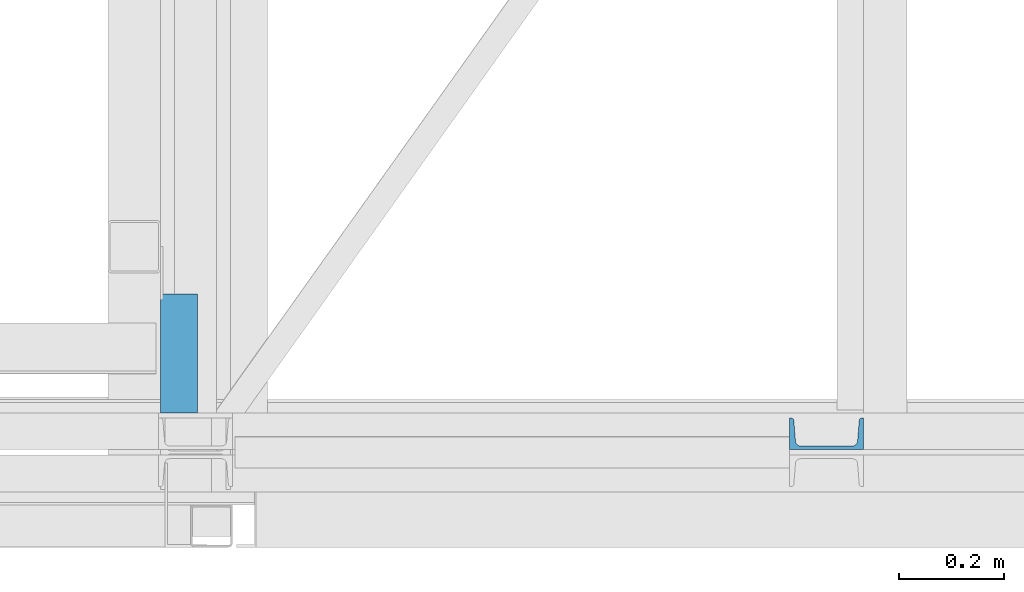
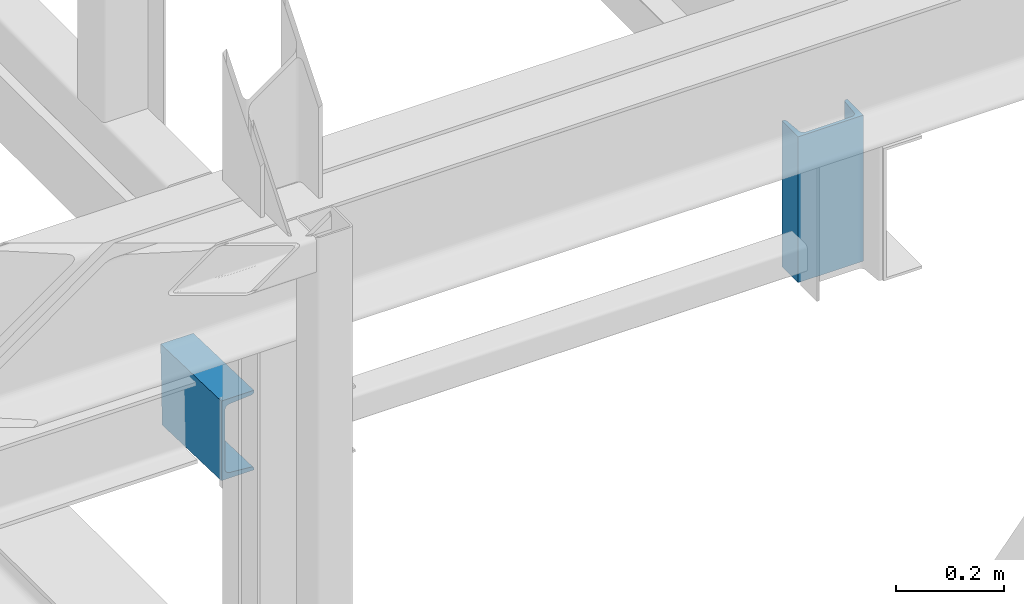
# One storey, part 45 of 123: 2 beams, 2 elements without a shape of their own.
"""IFC2X3 building model written with IfcOpenShell, lengths in millimetres."""

import ifcopenshell
import ifcopenshell.guid

model = None  # the IFC model being written
_history = None  # IfcOwnerHistory: only IFC2X3 demands one
_inside = {}  # id of a spatial element -> (the spatial element, [elements in it])
_under = {}  # id of a project, library or spatial element -> (it, [spatial elements below it])
_declared = {}  # id of a project -> (the project, [libraries it declares])
_typed = {}  # id of a type object -> (the type object, [elements of that type])
_made_of = {}  # id of a material, layer set ... -> (it, [elements and type objects made of it])


def new_model(schema):
    """Start an empty IFC model of exactly this schema.

    Asked for "IFC4X3", IfcOpenShell would pick the latest addendum, in which some entities
    have other attributes; the version numbers below select the first issue.
    IFC2X3 requires an IfcOwnerHistory on every rooted entity: one is made here for all.
    """
    global model, _history
    if schema == "IFC4X3":
        model = ifcopenshell.file(schema_version=(4, 3, 0, 0))
    else:
        model = ifcopenshell.file(schema=schema)
    _inside.clear()
    _under.clear()
    _declared.clear()
    _typed.clear()
    _made_of.clear()
    _history = None
    if model.schema == "IFC2X3":
        org = make("IfcOrganization", Name="unknown")
        user = make(
            "IfcPersonAndOrganization",
            ThePerson=make("IfcPerson", FamilyName="unknown"),
            TheOrganization=org,
        )
        app = make(
            "IfcApplication",
            ApplicationDeveloper=org,
            Version="unknown",
            ApplicationFullName="unknown",
            ApplicationIdentifier="unknown",
        )
        _history = make(
            "IfcOwnerHistory",
            OwningUser=user,
            OwningApplication=app,
            ChangeAction="ADDED",
            CreationDate=0,
        )
    return model


def make(cls, **values):
    """One entity of the class cls with the attributes given. An attribute that is None is left unset."""
    return model.create_entity(
        cls, **{name: value for name, value in values.items() if value is not None}
    )


def rooted(cls, **values):
    """An entity with a GlobalId (a new one), such as an element, a storey or a relation."""
    return make(cls, GlobalId=ifcopenshell.guid.new(), OwnerHistory=_history, **values)


def si_unit(unit_type, name, prefix=None):
    """IfcSIUnit, for example si_unit("LENGTHUNIT", "METRE", prefix="MILLI")."""
    return make("IfcSIUnit", UnitType=unit_type, Prefix=prefix, Name=name)


def assignment(units):
    """IfcUnitAssignment: the units of a project."""
    return None if units is None else make("IfcUnitAssignment", Units=units)


def point(xyz):
    """IfcCartesianPoint."""
    return None if xyz is None else make("IfcCartesianPoint", Coordinates=xyz)


def direction(xyz):
    """IfcDirection."""
    return None if xyz is None else make("IfcDirection", DirectionRatios=xyz)


def frame(location, z_axis=None, x_axis=None):
    """IfcAxis2Placement3D, a coordinate frame: its origin and axes. An axis left out is left unset."""
    return make(
        "IfcAxis2Placement3D",
        Location=point(location),
        Axis=direction(z_axis),
        RefDirection=direction(x_axis),
    )


def frame_2d(location, x_axis=None):
    """IfcAxis2Placement2D, a coordinate frame in the plane: its origin and x axis."""
    return make(
        "IfcAxis2Placement2D", Location=point(location), RefDirection=direction(x_axis)
    )


def origin_with_axes():
    """The frame at (0, 0, 0) with the z axis (0, 0, 1) and the x axis (1, 0, 0) written out."""
    return frame((0.0, 0.0, 0.0), z_axis=(0.0, 0.0, 1.0), x_axis=(1.0, 0.0, 0.0))


def origin_2d_with_axis():
    """The frame at (0, 0) in the plane with the x axis (1, 0) written out."""
    return frame_2d((0.0, 0.0), x_axis=(1.0, 0.0))


def place(relative_to, where):
    """IfcLocalPlacement: puts the frame where relative to a parent placement (None: the world)."""
    return make(
        "IfcLocalPlacement", PlacementRelTo=relative_to, RelativePlacement=where
    )


def context(
    kind, dimensions, precision=None, world=None, true_north=None, identifier=None
):
    """IfcGeometricRepresentationContext, for example the 3D "Model" context."""
    return make(
        "IfcGeometricRepresentationContext",
        ContextIdentifier=identifier,
        ContextType=kind,
        CoordinateSpaceDimension=dimensions,
        Precision=precision,
        WorldCoordinateSystem=world,
        TrueNorth=true_north,
    )


def subcontext(parent, identifier, kind, view, scale=None):
    """IfcGeometricRepresentationSubContext, for example "Body" below "Model"."""
    return make(
        "IfcGeometricRepresentationSubContext",
        ContextIdentifier=identifier,
        ContextType=kind,
        ParentContext=parent,
        TargetScale=scale,
        TargetView=view,
    )


def project(units=None, contexts=None):
    """IfcProject with its units and contexts."""
    return rooted(
        "IfcProject",
        Name="project",
        RepresentationContexts=contexts,
        UnitsInContext=assignment(units),
    )


def spatial(cls, under=None, at=None, **own):
    """A site, building, storey or space (cls), placed at a placement, below another one or the project."""
    s = rooted(cls, ObjectPlacement=at, **own)
    if under is not None:
        _under.setdefault(under.id(), (under, []))[1].append(s)
    return s


def profile(cls, at=None, kind="AREA", **sizes):
    """A parametric profile (cls). Its sizes go by their IFC names, for example OverallWidth=200.0."""
    return make(cls, ProfileType=kind, Position=at, **sizes)


def u_section(**sizes):
    """IfcUShapeProfileDef."""
    return profile("IfcUShapeProfileDef", **sizes)


def extrude(swept, where, along, depth):
    """IfcExtrudedAreaSolid: the profile swept, set in the frame where, extruded along a direction by depth."""
    return make(
        "IfcExtrudedAreaSolid",
        SweptArea=swept,
        Position=where,
        ExtrudedDirection=direction(along),
        Depth=depth,
    )


def clip(a, b, op="DIFFERENCE"):
    """IfcBooleanClippingResult: the solid a cut by the half space b."""
    return make(
        "IfcBooleanClippingResult", Operator=op, FirstOperand=a, SecondOperand=b
    )


def halfspace(plane, agree):
    """IfcHalfSpaceSolid: all space on one side of the plane z = 0 of the frame plane."""
    return make(
        "IfcHalfSpaceSolid",
        BaseSurface=make("IfcPlane", Position=plane),
        AgreementFlag=agree,
    )


def shape(context_of_items, identifier, shape_type, items):
    """IfcShapeRepresentation: the items that make up one representation, for example the "Body"."""
    return make(
        "IfcShapeRepresentation",
        ContextOfItems=context_of_items,
        RepresentationIdentifier=identifier,
        RepresentationType=shape_type,
        Items=items,
    )


def material(Name=None, Category=None):
    """IfcMaterial."""
    return make("IfcMaterial", Name=Name, Category=Category)


def made_of(thing, what):
    """Note that an element or type object is made of a material, layer set ...; save() writes the relation."""
    if what is not None:
        _made_of.setdefault(what.id(), (what, []))[1].append(thing)
    return thing


def type_object(cls, material=None, **own):
    """A type object (cls), such as IfcWallType, which elements share."""
    return made_of(rooted(cls, **own), material)


def element(
    cls,
    number,
    at=None,
    inside=None,
    cuts=None,
    type_object=None,
    material=None,
    context=None,
    identifier="Body",
    shape_type=None,
    held_by="IfcProductDefinitionShape",
    body=None,
    shapes=None,
    **own,
):
    """One element of the class cls, such as IfcWall. Its Tag is "e" and its number.

    at: its placement. inside: the storey or other place that contains it. cuts: it is an
    opening in that element (IfcRelVoidsElement). A single representation is given by context,
    identifier, shape_type and body (its items); several are given by shapes. held_by: the class
    of the entity that holds the representations. save() writes the other relations.
    """
    e = rooted(cls, Tag="e%d" % number, ObjectPlacement=at, **own)
    if body is not None:
        shapes = [shape(context, identifier, shape_type, body)]
    if shapes is not None:
        e.Representation = make(held_by, Representations=shapes)
    if inside is not None:
        _inside.setdefault(inside.id(), (inside, []))[1].append(e)
    if cuts is not None:
        rooted(
            "IfcRelVoidsElement", RelatingBuildingElement=cuts, RelatedOpeningElement=e
        )
    if type_object is not None:
        _typed.setdefault(type_object.id(), (type_object, []))[1].append(e)
    return made_of(e, material)


def aggregate(whole, parts):
    """IfcRelAggregates: a whole, such as a stair, and the parts it consists of."""
    return rooted("IfcRelAggregates", RelatingObject=whole, RelatedObjects=parts)


def save(model, path):
    """Write the relations noted so far, then the file.

    IfcRelAggregates (storeys below a building ...), IfcRelContainedInSpatialStructure (elements
    in a storey), IfcRelDefinesByType, IfcRelAssociatesMaterial and IfcRelDeclares: one each for
    every whole, place, type object, material and project.
    """
    for whole, parts in _under.values():
        aggregate(whole, parts)
    for where, things in _inside.values():
        rooted(
            "IfcRelContainedInSpatialStructure",
            RelatedElements=things,
            RelatingStructure=where,
        )
    for kind, things in _typed.values():
        rooted("IfcRelDefinesByType", RelatedObjects=things, RelatingType=kind)
    for what, things in _made_of.values():
        rooted("IfcRelAssociatesMaterial", RelatedObjects=things, RelatingMaterial=what)
    for by, libraries in _declared.values():
        rooted("IfcRelDeclares", RelatingContext=by, RelatedDefinitions=libraries)
    model.write(path)


model = new_model("IFC2X3")

# Units and contexts
model_context = context("Model", 3, precision=1e-05, world=origin_with_axes())
body_context = subcontext(model_context, "Body", "Model", "MODEL_VIEW")
ifc_project = project(units=[si_unit("LENGTHUNIT", "METRE", prefix="MILLI"), si_unit("AREAUNIT", "SQUARE_METRE"), si_unit("VOLUMEUNIT", "CUBIC_METRE"), si_unit("MASSUNIT", "GRAM", prefix="KILO"), si_unit("TIMEUNIT", "SECOND"), si_unit("PLANEANGLEUNIT", "RADIAN"), si_unit("SOLIDANGLEUNIT", "STERADIAN"), si_unit("THERMODYNAMICTEMPERATUREUNIT", "DEGREE_CELSIUS"), si_unit("LUMINOUSINTENSITYUNIT", "LUMEN")], contexts=[model_context])

# Site, building, storey
site_placement = place(None, origin_with_axes())
site = spatial("IfcSite", under=ifc_project, at=site_placement, Name="Undefined", CompositionType="ELEMENT")
building_placement = place(site_placement, origin_with_axes())
building = spatial("IfcBuilding", under=site, at=building_placement, Name="Undefined", CompositionType="ELEMENT")
storey_placement = place(building_placement, origin_with_axes())
storey = spatial("IfcBuildingStorey", under=building, at=storey_placement, Name="Undefined", CompositionType="ELEMENT", Elevation=0.0)

# Assembly, beam
assembly_1_placement = place(storey_placement, origin_with_axes())
assembly_1 = element("IfcElementAssembly", 1, at=assembly_1_placement, inside=storey, Name="Steel Assembly", AssemblyPlace="NOTDEFINED", PredefinedType="RIGID_FRAME")
ifc_material = material(Name="STEEL/S275-E28")
beam_type_1 = type_object("IfcBeamType", Name="UPN140", PredefinedType="NOTDEFINED")
beam_1_placement = place(assembly_1_placement, frame((24666.4916006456, 35.0, 8269.99444626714), z_axis=(-1.0, 0.0, 0.0), x_axis=(0.0, 0.0, -1.0)))
beam_1 = element("IfcBeam", 2, at=beam_1_placement, type_object=beam_type_1, material=ifc_material, Name="MONTANT", ObjectType="UPN140", context=body_context, shape_type="SweptSolid", body=[
    extrude(u_section(Depth=140.0, FlangeWidth=60.0, WebThickness=7.0, FlangeThickness=10.0, FilletRadius=10.0, EdgeRadius=5.0, FlangeSlope=0.0798299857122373, at=origin_2d_with_axis()), frame((329.994446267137, 0.0, 0.0), z_axis=(-1.0, 0.0, 0.0), x_axis=(0.0, -1.0, 0.0)), (0.0, 0.0, 1.0), 330.0),
])
aggregate(assembly_1, [beam_1])

assembly_2_placement = place(storey_placement, origin_with_axes())
assembly_2 = element("IfcElementAssembly", 3, at=assembly_2_placement, inside=storey, Name="Steel Assembly", AssemblyPlace="NOTDEFINED", PredefinedType="RIGID_FRAME")
beam_type_2 = type_object("IfcBeamType", Name="UPN180", PredefinedType="NOTDEFINED")
beam_2_placement = place(assembly_2_placement, frame((23438.5002331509, -2.8269687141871, 7960.04450366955), z_axis=(-2.6870000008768e-06, 0.031410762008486, 0.99950656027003), x_axis=(0.0, 0.999506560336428, -0.0314107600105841)))
beam_2 = element("IfcBeam", 4, at=beam_2_placement, type_object=beam_type_2, material=ifc_material, Name="RAMASSE PANNE", ObjectType="UPN180", context=body_context, shape_type="Clipping", body=[
    clip(extrude(u_section(Depth=180.0, FlangeWidth=70.0, WebThickness=8.0, FlangeThickness=11.0, FilletRadius=11.0, EdgeRadius=5.5, FlangeSlope=0.0798299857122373, at=origin_2d_with_axis()), frame((300.101937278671, 0.0, -9.09494701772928e-13), z_axis=(-1.0, 0.0, 0.0), x_axis=(0.0, -1.0, 0.0)), (0.0, 0.0, 1.0), 300.1), halfspace(frame((80.6937547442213, 34.9999999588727, -89.9999999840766), z_axis=(-0.999506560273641, -1.55685002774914e-09, -0.0314107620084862), x_axis=(-0.0314107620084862, -3.75453964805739e-10, 0.999506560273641)), False)),
])
aggregate(assembly_2, [beam_2])

save(model, "model.ifc")
